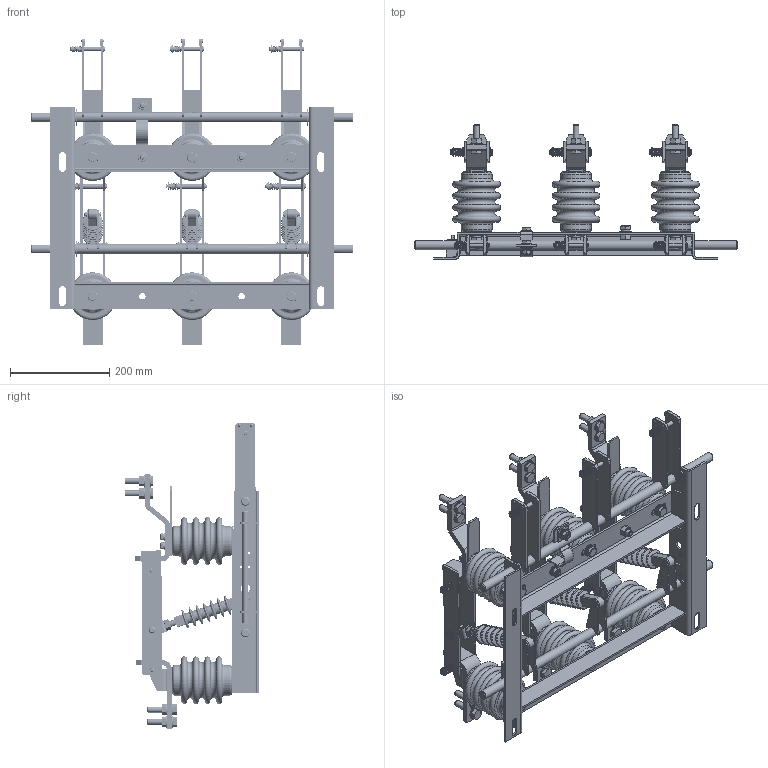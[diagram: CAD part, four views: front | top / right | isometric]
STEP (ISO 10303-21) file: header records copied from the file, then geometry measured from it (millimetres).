
FILE_DESCRIPTION (( 'STEP AP214' ), '1' );
FILE_NAME ('Ðàçúåäèíèòåëü âûñîêîâîëüòíûé ÐÂÇ-101000-I-È2-Ó3.STEP', '2023-02-03T10:56:18', ( '' ), ( '' ), 'SwSTEP 2.0', 'SolidWorks 2018', '' );
FILE_SCHEMA (( 'AUTOMOTIVE_DESIGN' ));
Length unit declared in the file: millimetre
Products named in the file (1): Ðàçúåäèíèòåëü âûñîêîâîëüòíûé ÐÂÇ-101000-I-È2-Ó3
Bounding box: 650 x 271 x 617.5 mm (x, y, z)
Volume: 6323706 mm3; surface area: 1317063.9 mm2
Topology: 1 solids, 7 shells, 2380 faces, 5956 edges, 3805 vertices
Faces by surface type: plane 1485, cylinder 625, cone 141, torus 102, bspline 15, sphere 12
Full cylindrical faces by diameter (mm): 4 x24, 8 x39, 8.3 x6, 8.4 x9, 8.5 x6, 8.976 x2, 9.197 x12, 9.68 x2, 9.759 x2, 9.794 x6, 10 x3, 10.5 x2, 12 x30, 12.1 x2, 12.35 x12, 13 x10, 13.739 x15, 16 x15, 16.15 x3, 18 x4, 18.1 x2, 19.508 x4, 20 x4, 20.022 x3, 22 x18, 24 x31, 34 x4, 54 x12, 62 x12
Entity records: 127064 total; most frequent: CARTESIAN_POINT 47862, DIRECTION 11152, ORIENTED_EDGE 10370, EDGE_CURVE 5185, AXIS2_PLACEMENT_3D 4155, VERTEX_POINT 3575, EDGE_LOOP 3330, VECTOR 2842
